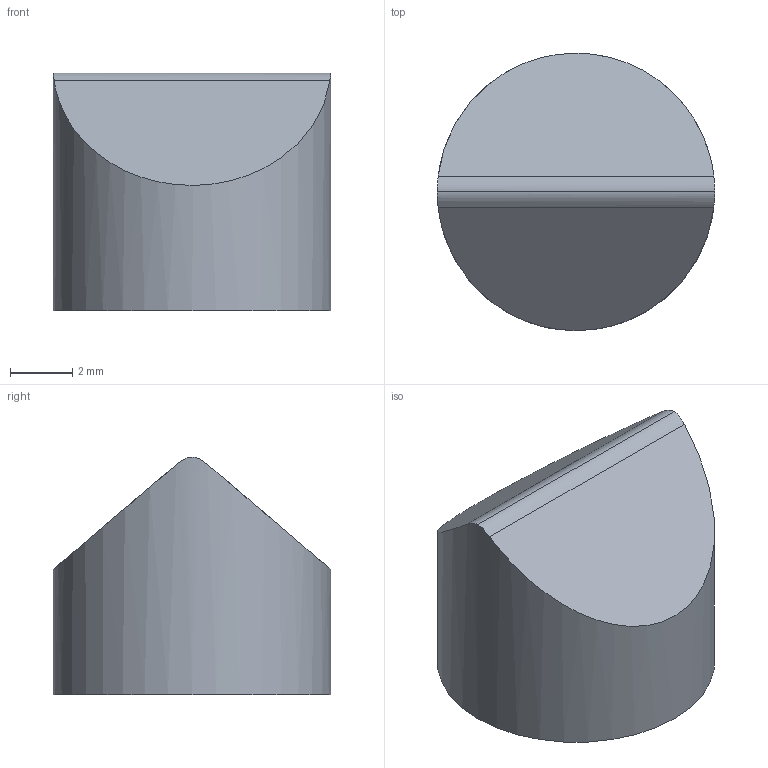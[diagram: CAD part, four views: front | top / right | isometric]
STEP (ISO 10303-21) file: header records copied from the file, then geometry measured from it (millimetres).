
FILE_DESCRIPTION(/* description */ ('Alibre Inc.'),/* implementation_level */ '2;1');
FILE_NAME(/* name */ 'export0',/* time_stamp */ '2011-07-18T14:32:17-04:00',/* author */ (''),/* organization */ (''),/* preprocessor_version */ 'ST-DEVELOPER v12',/* originating_system */ 'Alibre',/* authorisation */ '');
FILE_SCHEMA (('AUTOMOTIVE_DESIGN'));
Length unit declared in the file: centimetre
Bounding box: 8.89 x 8.89 x 7.62 mm (x, y, z)
Volume: 384.4 mm3; surface area: 292.6 mm2
Topology: 1 solids, 1 shells, 6 faces, 11 edges, 7 vertices
Faces by surface type: plane 3, bspline 2, cylinder 1
Full cylindrical faces by diameter (mm): 8.89 x1
Entity records: 221 total; most frequent: CARTESIAN_POINT 101, ORIENTED_EDGE 20, DIRECTION 14, EDGE_CURVE 10, VERTEX_POINT 7, EDGE_LOOP 7, FACE_BOUND 7, AXIS2_PLACEMENT_3D 7
